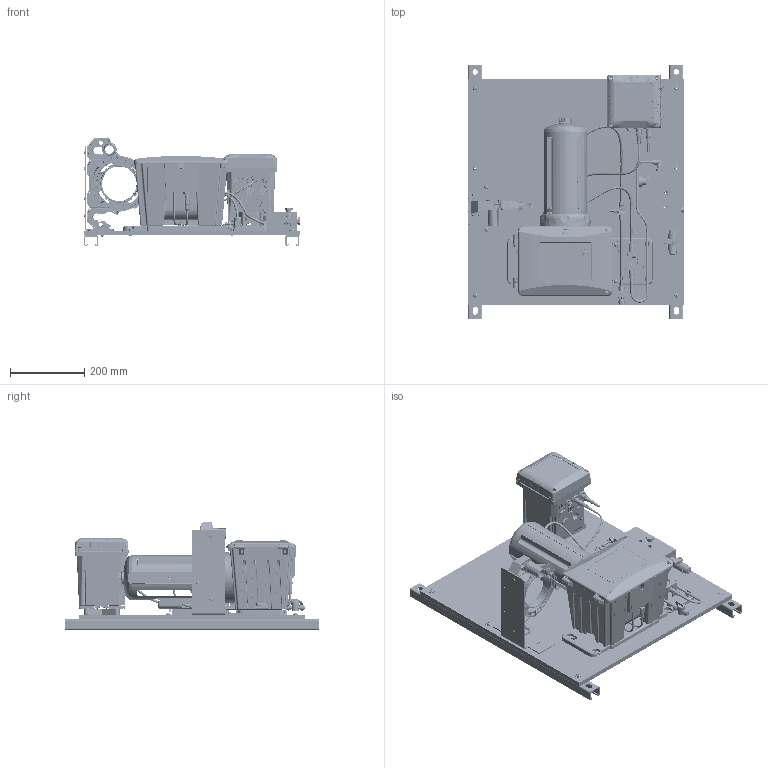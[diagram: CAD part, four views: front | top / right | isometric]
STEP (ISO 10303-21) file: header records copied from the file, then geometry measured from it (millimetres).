
FILE_DESCRIPTION (( 'STEP AP214' ), '1' );
FILE_NAME ('SPMP-TU_Rev B.STEP', '2025-04-14T20:13:59', ( '' ), ( '' ), 'SwSTEP 2.0', 'SolidWorks 2024', '' );
FILE_SCHEMA (( 'AUTOMOTIVE_DESIGN' ));
Products named in the file (1): SPMP-TU_Rev B
Bounding box: 585.15 x 685.8 x 291.09 mm (x, y, z)
Surface area: 1972982.9 mm2 (no closed solid volume)
Topology: 0 solids, 460 shells, 4655 faces, 21065 edges, 16414 vertices
Faces by surface type: plane 1701, cylinder 1398, bspline 894, cone 492, torus 113, sphere 57
Full cylindrical faces by diameter (mm): 5 x1
Entity records: 318647 total; most frequent: CARTESIAN_POINT 170104, ORIENTED_EDGE 28641, DIRECTION 25664, EDGE_CURVE 20981, VERTEX_POINT 16403, VECTOR 9066, LINE 9066, AXIS2_PLACEMENT_3D 8299
